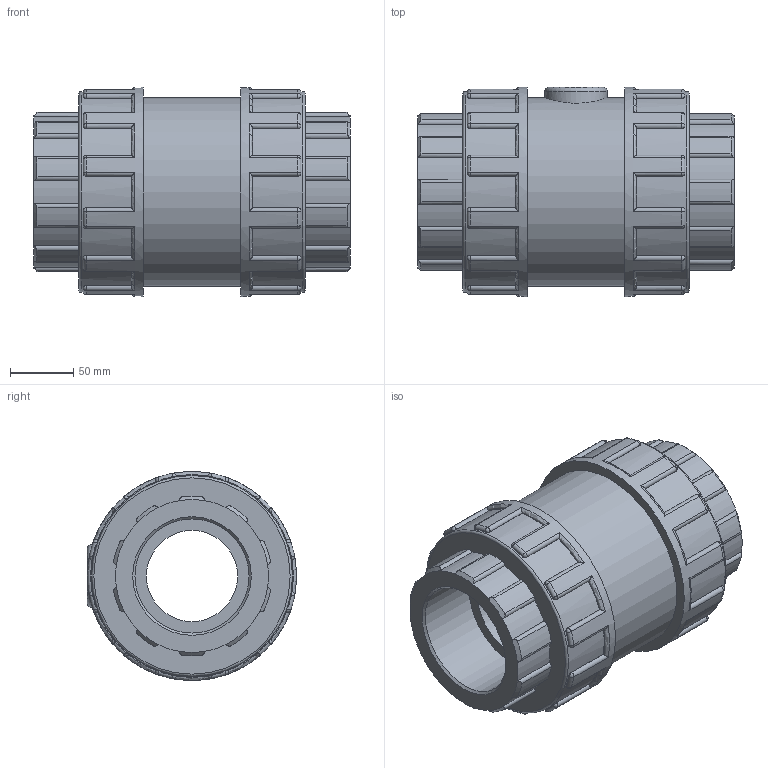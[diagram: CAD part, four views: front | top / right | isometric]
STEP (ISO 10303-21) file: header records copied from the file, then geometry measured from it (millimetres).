
FILE_DESCRIPTION(/* description */ ('PLASSON CHECK VALVE CEM 90 PTFE COATED SPRING + EPDM O-RING'),/* implementation_level */ '2;1');
FILE_NAME(/* name */ 'C:\Dropbox\KIMPROJECTS-Inventor\99-16-3568-Processing\PVC Catalog 2017\110800 - 110600 110900-110000\11080090.ipt.stp',/* time_stamp */ '2017-12-07T16:07:56+02:00',/* author */ ('KIM'),/* organization */ (''),/* preprocessor_version */ 'ST-DEVELOPER v15.6',/* originating_system */ 'Autodesk Inventor 2015',/* authorisation */ '');
FILE_SCHEMA (('AUTOMOTIVE_DESIGN { 1 0 10303 214 3 1 1 }'));
Length unit declared in the file: millimetre
Products named in the file (1): 11080090
Bounding box: 250 x 165 x 165 mm (x, y, z)
Volume: 3030667.9 mm3; surface area: 224337.6 mm2
Topology: 1 solids, 1 shells, 411 faces, 1021 edges, 618 vertices
Faces by surface type: cylinder 185, plane 105, torus 51, sphere 48, cone 22
Full cylindrical faces by diameter (mm): 49.5 x1, 72 x1, 90 x2, 148.5 x1, 158.4 x2, 165 x2
Entity records: 13410 total; most frequent: CARTESIAN_POINT 3631, DIRECTION 2180, ORIENTED_EDGE 1998, EDGE_CURVE 999, AXIS2_PLACEMENT_3D 906, VERTEX_POINT 611, CIRCLE 494, EDGE_LOOP 434
